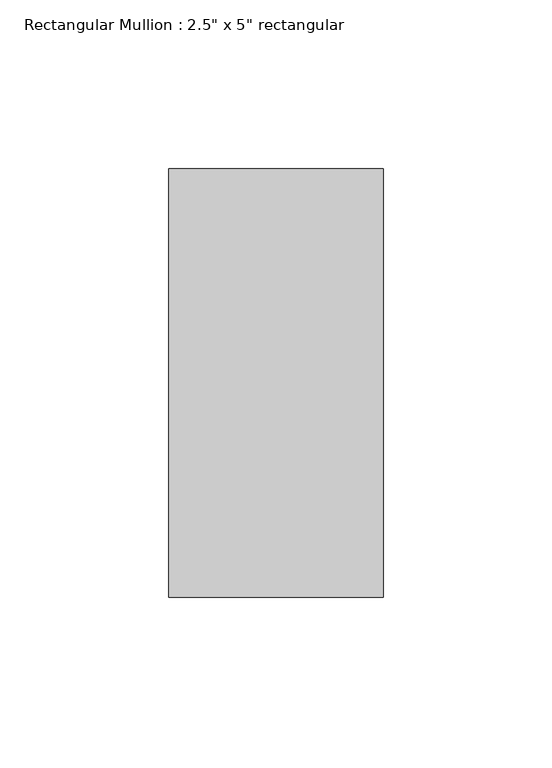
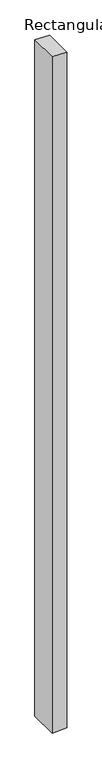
"""IFC4 building model written with IfcOpenShell, lengths in millimetres: member geometry."""

from ifc_helpers import new_model, si_unit, frame, origin, place, context, project, spatial, polyline, outline, extrude, source, transform, mapped, element, save


def member_a7cc08f1(model_context):
    return source(origin(), model_context, "Body", "SweptSolid", [
        extrude(outline(polyline([(0.0, 0.0), (1.3785125, -63.5), (-3049.6587339, -63.5), (-3048.2794086, 0.0), (0.0, 0.0)])), frame((0.0, -63.5, 0.0), z_axis=(0.0, 1.0, 0.0), x_axis=(0.0, 0.0, 1.0)), (0.0, 0.0, 1.0), 127.0),
    ])


if __name__ == "__main__":
    model = new_model("IFC4")
    model_context = context("Model", 3, world=origin())
    ifc_project = project(units=[si_unit("LENGTHUNIT", "METRE", prefix="MILLI")], contexts=[model_context])
    site = spatial("IfcSite", under=ifc_project)
    building = spatial("IfcBuilding", under=site)
    placement = place(None, origin())
    member_shape = member_a7cc08f1(model_context)
    element("IfcMember", 1, ObjectType="Rectangular Mullion : 2.5\" x 5\" rectangular", at=placement, inside=building, context=model_context, shape_type="MappedRepresentation", body=[
        mapped(member_shape, transform((0.0, 0.0, 0.0), x_axis=(1.0, 0.0, 0.0), y_axis=(0.0, 1.0, 0.0), z_axis=(0.0, 0.0, 1.0))),
    ])
    save(model, "model.ifc")
